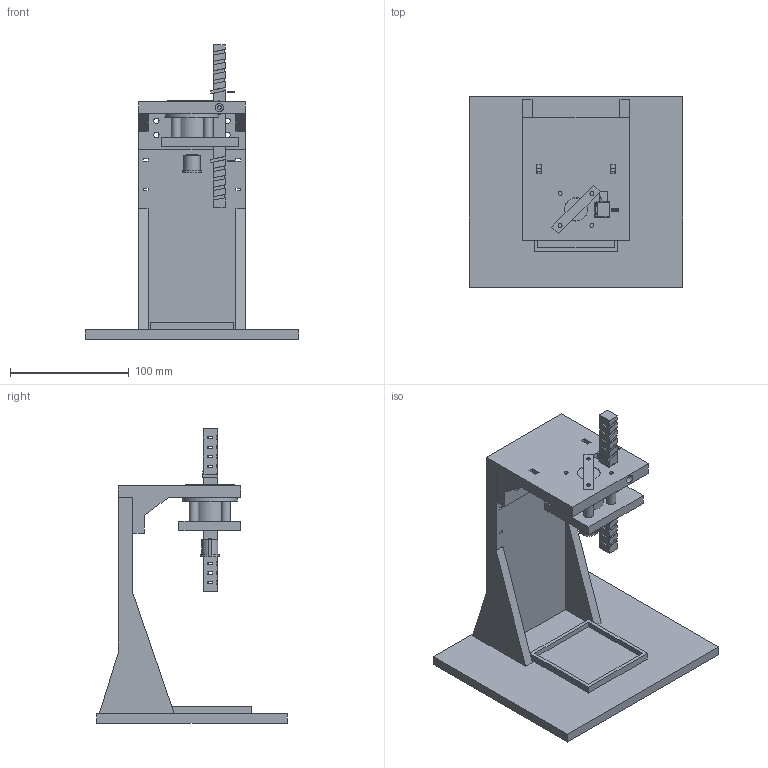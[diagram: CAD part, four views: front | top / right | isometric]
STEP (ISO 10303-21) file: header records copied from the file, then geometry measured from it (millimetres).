
FILE_DESCRIPTION(('Open CASCADE Model'),'2;1');
FILE_NAME('Open CASCADE Shape Model','2026-11-12T20:35:42',('Author'),( 'Open CASCADE'),'Open CASCADE STEP processor 7.9','Open CASCADE 7.9' ,'Unknown');
FILE_SCHEMA(('AUTOMOTIVE_DESIGN { 1 0 10303 214 1 1 1 1 }'));
Length unit declared in the file: millimetre
Products named in the file (20): optional_top_helper_stack; 01_frame_base_upright_tray; 02_head_common_rod_guide; 03_cassette_common_rod_guide; 04_D68_payload_carrier; 05_common_direct_insert_rod; REF_EM_nominal_25x20; REF_D68_N52_gap15; REF_nylon_retaining_loop_envelope; REF_upper_LPG_max_body; REF_upper_native_pins; REF_upper_retaining_loop; REF_lower_LPG_max_body; REF_lower_native_pins; REF_lower_retaining_loop; NONPRINT_top_stack_retainer_strip; REF_TOP_DC1_disk_1; REF_TOP_DC1_disk_2; REF_TOP_DC1_disk_3; REF_TOP_DC1_disk_4
Assembly tree (19 placements, depth 2):
  optional_top_helper_stack
    01_frame_base_upright_tray
    02_head_common_rod_guide
    03_cassette_common_rod_guide
    04_D68_payload_carrier
    05_common_direct_insert_rod
    REF_EM_nominal_25x20
    REF_D68_N52_gap15
    REF_nylon_retaining_loop_envelope
    REF_upper_LPG_max_body
    REF_upper_native_pins
    REF_upper_retaining_loop
    REF_lower_LPG_max_body
    REF_lower_native_pins
    REF_lower_retaining_loop
    NONPRINT_top_stack_retainer_strip
    REF_TOP_DC1_disk_1
    REF_TOP_DC1_disk_2
    REF_TOP_DC1_disk_3
    REF_TOP_DC1_disk_4
Bounding box: 180 x 160 x 248 mm (x, y, z)
Volume: 645502 mm3; surface area: 173480.2 mm2
Topology: 23 solids, 23 shells, 514 faces, 1340 edges, 865 vertices
Faces by surface type: plane 473, cylinder 41
Full cylindrical faces by diameter (mm): 3.4 x11, 4.5 x8, 7 x1, 8 x4, 9.525 x1, 10 x1, 19.05 x4, 19.6 x2, 25 x1, 26 x1
Entity records: 33145 total; most frequent: CARTESIAN_POINT 5661, DIRECTION 4981, LINE 3648, VECTOR 3648, ORIENTED_EDGE 2680, PCURVE 2680, DEFINITIONAL_REPRESENTATION 2680, EDGE_CURVE 1340
